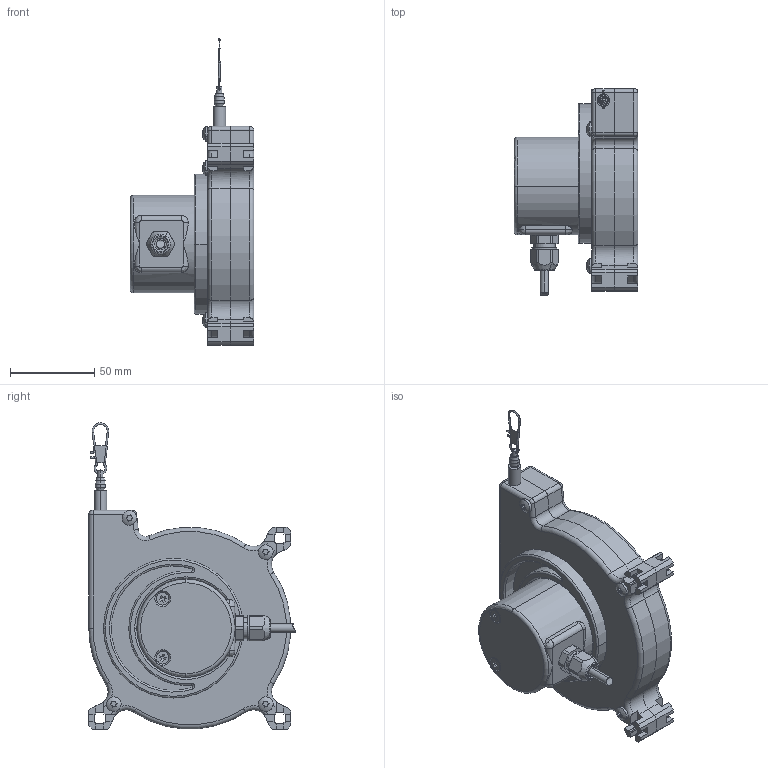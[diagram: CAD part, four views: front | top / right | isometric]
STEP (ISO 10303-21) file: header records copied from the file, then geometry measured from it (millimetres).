
FILE_DESCRIPTION((''),'2;1');
FILE_NAME('WPS-5000-MK120-CR-P','2010-05-04T',(''),(''),'PRO/ENGINEER BY PARAMETRIC TECHNOLOGY CORPORATION, 2003250','PRO/ENGINEER BY PARAMETRIC TECHNOLOGY CORPORATION, 2003250','');
FILE_SCHEMA(('CONFIG_CONTROL_DESIGN'));
Length unit declared in the file: millimetre
Products named in the file (10): GEHAEUSE-FEDERSEITE_5M; GEHAEUSE-SENSORSEITE; KARABINKA; ST_4_2X25; AGRO_PG7; POUZDRO_POTENCIOMETRU_MK120_CR-; KABEL_5; 55X2; M4X10; WPS-5000-MK120-CR-P
Assembly tree (13 placements, depth 2):
  WPS-5000-MK120-CR-P
    GEHAEUSE-FEDERSEITE_5M
    GEHAEUSE-SENSORSEITE
    KARABINKA
    ST_4_2X25  x4
    AGRO_PG7
    POUZDRO_POTENCIOMETRU_MK120_CR-
    KABEL_5
    55X2
    M4X10  x2
Bounding box: 73.5 x 122.64 x 182 mm (x, y, z)
Volume: 178322.9 mm3; surface area: 113735 mm2
Topology: 13 solids, 14 shells, 1040 faces, 2751 edges, 1782 vertices
Faces by surface type: plane 590, cylinder 271, torus 64, extrusion 55, cone 42, sphere 10, bspline 8
Entity records: 29854 total; most frequent: CARTESIAN_POINT 6609, ORIENTED_EDGE 4862, DIRECTION 4661, EDGE_CURVE 2431, VECTOR 1697, LINE 1642, VERTEX_POINT 1574, AXIS2_PLACEMENT_3D 1482
